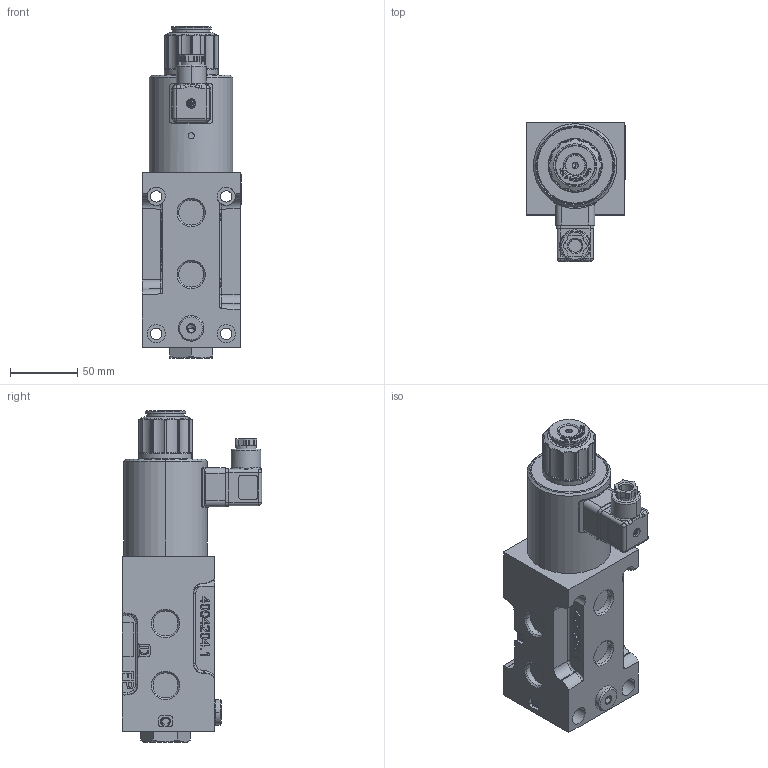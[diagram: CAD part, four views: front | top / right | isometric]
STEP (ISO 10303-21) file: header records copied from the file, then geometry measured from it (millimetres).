
FILE_DESCRIPTION((''),'2;1');
FILE_NAME('CADDOC-0857762','2018-07-30T',('katarina.pajtinova'),(''),'PRO/ENGINEER BY PARAMETRIC TECHNOLOGY CORPORATION, 2016100','PRO/ENGINEER BY PARAMETRIC TECHNOLOGY CORPORATION, 2016100','');
FILE_SCHEMA(('CONFIG_CONTROL_DESIGN'));
Products named in the file (1): CADDOC-0857762
Bounding box: 74.2 x 103.29 x 246.5 mm (x, y, z)
Volume: 856557.7 mm3; surface area: 94292.4 mm2
Topology: 1 solids, 1 shells, 1542 faces, 4025 edges, 2579 vertices
Faces by surface type: plane 805, extrusion 292, cylinder 216, cone 69, torus 67, bspline 62, sphere 29, revolution 2
Entity records: 96421 total; most frequent: CARTESIAN_POINT 60095, ORIENTED_EDGE 7986, DIRECTION 6431, EDGE_CURVE 3993, VECTOR 2741, VERTEX_POINT 2579, LINE 2449, AXIS2_PLACEMENT_3D 1844
